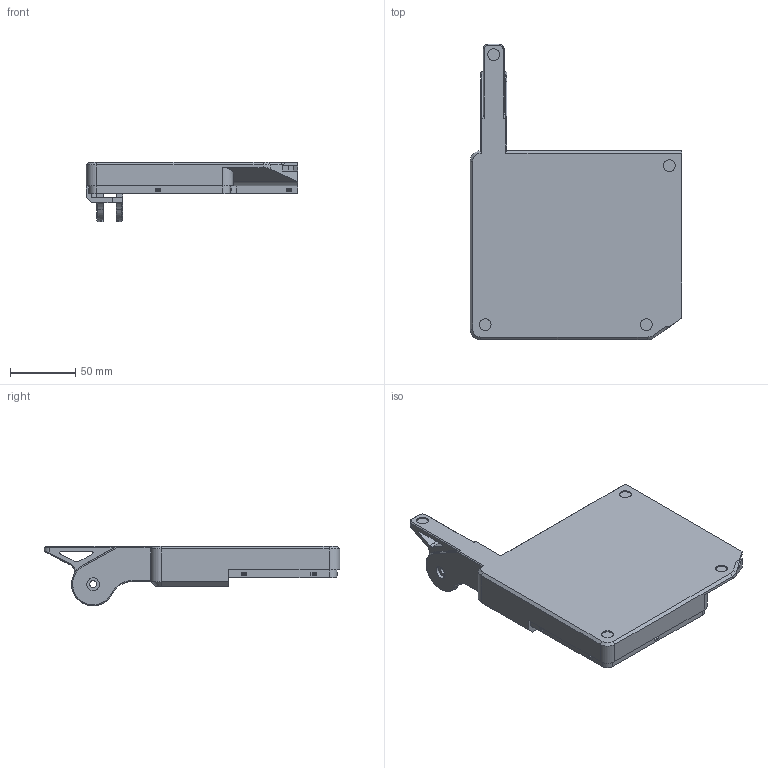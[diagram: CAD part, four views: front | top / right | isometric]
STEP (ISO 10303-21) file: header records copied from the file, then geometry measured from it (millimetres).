
FILE_DESCRIPTION(/* description */ ('STEP AP242','CAx-IF Rec.Pracs.---Representation and Presentation of Product Manufacturing Information (PMI)---4.0---2014-10-13','CAx-IF Rec.Pracs.---3D Tessellated Geometry---0.4---2014-09-14','2;1'),/* implementation_level */ '2;1');
FILE_NAME(/* name */ 'Base Shell - Right Base',/* time_stamp */ '2025-07-21T16:38:40Z',/* author */ (''),/* organization */ (''),/* preprocessor_version */ 'ST-DEVELOPER v20',/* originating_system */ 'ONSHAPE BY PTC INC, 1.201',/* authorisation */ ' ');
FILE_SCHEMA (('AP242_MANAGED_MODEL_BASED_3D_ENGINEERING_MIM_LF { 1 0 10303 442 1 1 4 }'));
Length unit declared in the file: metre
Products named in the file (1): Right Base
Bounding box: 162.07 x 226.19 x 45.45 mm (x, y, z)
Volume: 177112.9 mm3; surface area: 88212.7 mm2
Topology: 1 solids, 1 shells, 263 faces, 719 edges, 472 vertices
Faces by surface type: plane 177, cylinder 67, cone 17, bspline 2
Full cylindrical faces by diameter (mm): 1.4 x1, 4.8 x1, 5.3 x2, 7.5 x1, 9 x4, 9.75 x1
Entity records: 8296 total; most frequent: CARTESIAN_POINT 1526, ORIENTED_EDGE 1412, DIRECTION 1372, EDGE_CURVE 706, LINE 538, VECTOR 538, VERTEX_POINT 469, AXIS2_PLACEMENT_3D 417
